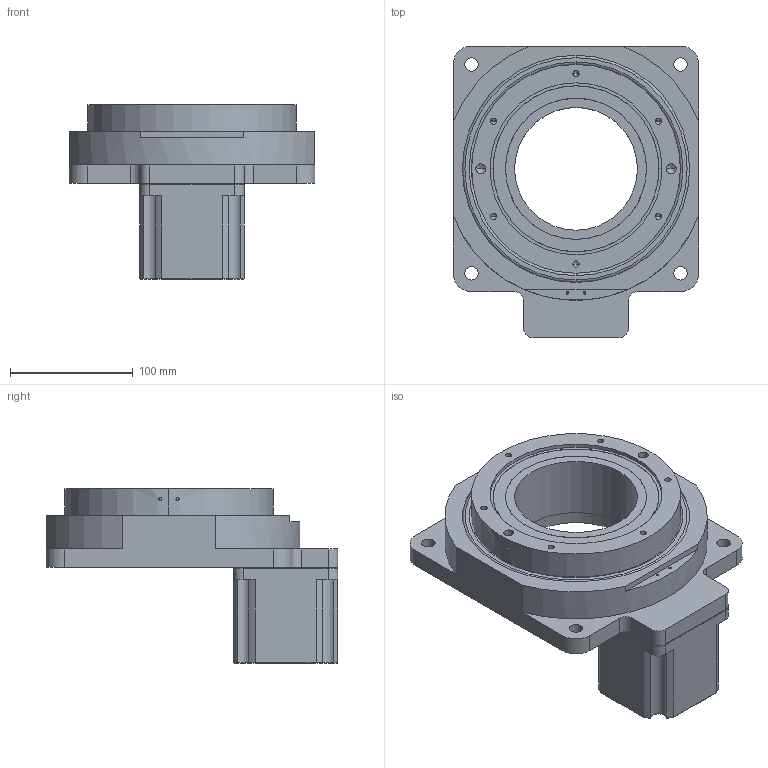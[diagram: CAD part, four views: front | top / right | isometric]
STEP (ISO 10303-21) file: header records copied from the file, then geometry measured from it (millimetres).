
FILE_DESCRIPTION (( 'STEP AP203' ), '1' );
FILE_NAME ('DG200+85¨B¶i.STEP', '2017-10-20T01:44:04', ( 'SkyUser' ), ( 'ITianKong.Com' ), 'SwSTEP 2.0', 'SolidWorks 2013', '' );
FILE_SCHEMA (( 'CONFIG_CONTROL_DESIGN' ));
Length unit declared in the file: millimetre
Products named in the file (1): DG200+85步進
Bounding box: 200 x 237.5 x 142 mm (x, y, z)
Volume: 1849915.6 mm3; surface area: 282225.8 mm2
Topology: 4 solids, 4 shells, 312 faces, 758 edges, 452 vertices
Faces by surface type: cylinder 167, cone 72, plane 61, torus 8, bspline 4
Entity records: 11271 total; most frequent: CARTESIAN_POINT 3813, DIRECTION 1672, ORIENTED_EDGE 1420, EDGE_CURVE 710, AXIS2_PLACEMENT_3D 685, VERTEX_POINT 452, EDGE_LOOP 398, CIRCLE 376
